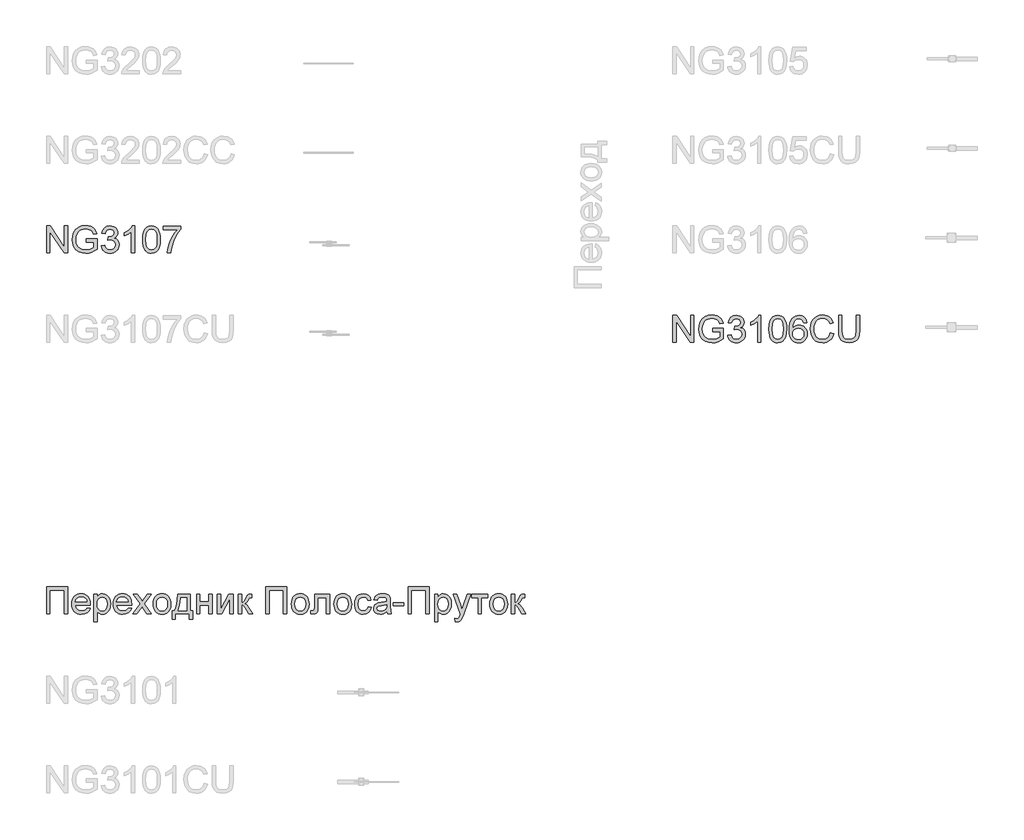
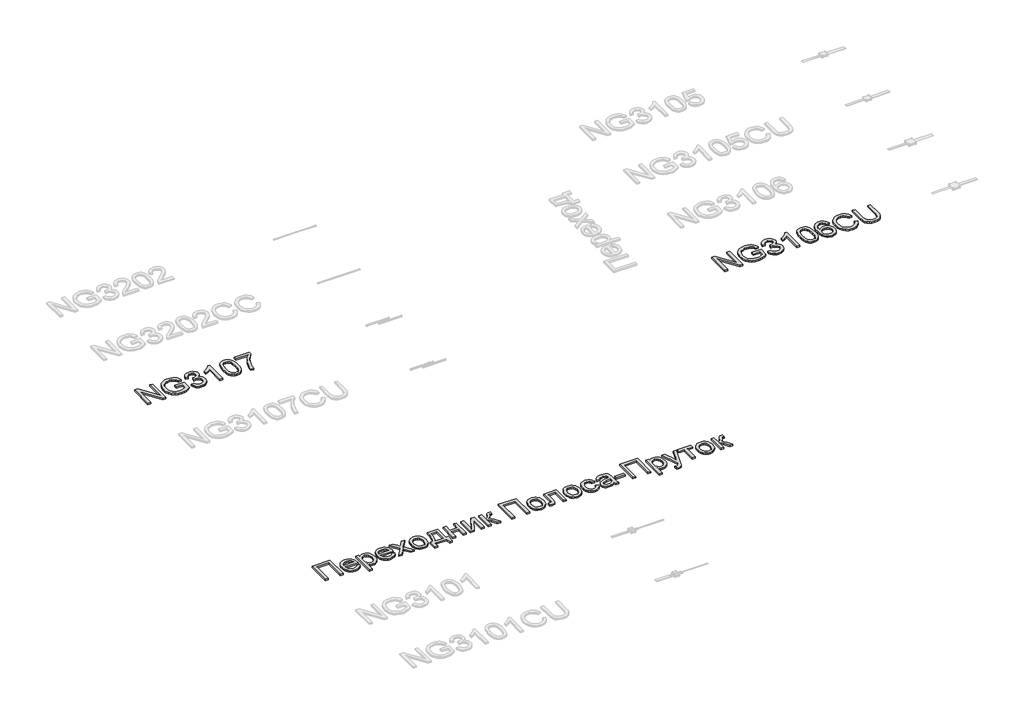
# One storey, part 109 of 124: 3 proxies.
"""IFC4 building model written with IfcOpenShell, lengths in millimetres."""

from ifc_helpers import new_model, si_unit, origin, origin_with_axes, place, context, project, spatial, polyline, outline, extrude, element, save

model = new_model("IFC4")

# Units and contexts
model_context = context("Model", 3, world=origin())
ifc_project = project(units=[si_unit("LENGTHUNIT", "METRE", prefix="MILLI")], contexts=[model_context])

# Site, building, storey
site = spatial("IfcSite", under=ifc_project)
building = spatial("IfcBuilding", under=site)
storey = spatial("IfcBuildingStorey", under=building, Name="Этаж 01", Elevation=0.0)

# Proxies
placement = place(None, origin())
element("IfcBuildingElementProxy", 1, Name="300", ObjectType="300", at=placement, inside=storey, context=model_context, shape_type="SweptSolid", body=[
    extrude(outline(polyline([(49699.8220677, -27253.0619179), (49935.2665446, -27253.0619179), (49935.2665446, -27554.4308483), (49897.5954283, -27554.4308483), (49897.5954283, -27290.7330342), (49737.493184, -27290.7330342), (49737.493184, -27554.4308483), (49699.8220677, -27554.4308483), (49699.8220677, -27253.0619179)])), origin_with_axes(), (0.0, 0.0, 1.0), 20.0),
    extrude(outline(polyline([(50151.434005, -27488.5063948), (50188.3693573, -27493.2152843), (50175.0612261, -27521.0455573), (50153.8252379, -27541.8492841), (50125.1396394, -27554.8171244), (50089.482677, -27559.1397379), (50066.1083747, -27557.275036), (50045.2816553, -27551.6809304), (50027.0025186, -27542.3574211), (50011.2709648, -27529.304508), (49998.6204227, -27512.8854747), (49989.5843212, -27493.4636047), (49984.1626603, -27471.0388978), (49982.35544, -27445.6113541), (49984.1810544, -27419.3215871), (49989.6578976, -27396.1496199), (49998.7859696, -27376.0954526), (50011.5652704, -27359.1590853), (50027.2554375, -27345.7038013), (50045.1161084, -27336.0928842), (50065.147283, -27330.3263339), (50087.3489614, -27328.4041505), (50108.8355692, -27330.3217354), (50128.2666363, -27336.0744901), (50145.6421628, -27345.6624146), (50160.9621486, -27359.0855089), (50173.4678372, -27375.985088), (50182.4004719, -27396.0024671), (50187.7600527, -27419.1376461), (50189.5465797, -27445.3906249), (50189.3258505, -27455.544168), (50020.0265563, -27455.544168), (50026.5472647, -27483.7423229), (50041.6948058, -27504.4724734), (50063.5561934, -27517.2195845), (50090.218441, -27521.4686215), (50110.2680097, -27519.5004529), (50127.1537933, -27513.5959469), (50140.8757917, -27503.3872215), (50151.434005, -27488.5063948)]), holes=[polyline([(50020.0265563, -27417.8730517), (50151.8754634, -27417.8730517), (50146.7802977, -27397.9706358), (50136.7923016, -27383.7336026), (50114.8297465, -27370.4898507), (50087.2018086, -27366.0752668), (50061.8087539, -27369.5977369), (50040.811889, -27380.1651472), (50026.2161709, -27396.6370635), (50020.0265563, -27417.8730517)])]), origin_with_axes(), (0.0, 0.0, 1.0), 20.0),
    extrude(outline(polyline([(50227.217696, -27639.19086), (50227.217696, -27333.11304), (50264.8888123, -27333.11304), (50264.8888123, -27370.0483923), (50277.1760709, -27351.8290365), (50290.9348575, -27338.8152109), (50306.9745125, -27331.0069156), (50326.1043763, -27328.4041505), (50351.5802044, -27332.0461822), (50373.8554593, -27342.9722775), (50391.9920416, -27360.5202487), (50405.0518524, -27384.0279081), (50412.9429212, -27411.7846047), (50415.5732775, -27442.079687), (50412.6026304, -27474.2969527), (50403.6906891, -27503.11131), (50389.1225621, -27527.0604279), (50369.1833579, -27544.6819754), (50345.960807, -27555.5252973), (50321.5426395, -27559.1397379), (50304.2245946, -27556.7209137), (50288.7643538, -27549.4644414), (50275.529799, -27538.510755), (50264.8888123, -27525.0002887), (50264.8888123, -27639.19086), (50227.217696, -27639.19086)]), holes=[polyline([(50264.8888123, -27445.5377777), (50268.9631054, -27479.3093449), (50281.1859847, -27502.927369), (50299.2213995, -27516.8333084), (50320.7332992, -27521.4686215), (50342.5946867, -27516.6677615), (50361.089954, -27502.2651814), (50373.6991094, -27477.7826346), (50377.9021612, -27442.7418746), (50373.800277, -27409.1542484), (50361.4946242, -27385.2051305), (50343.4868006, -27370.8577327), (50322.2784035, -27366.0752668), (50300.9872331, -27371.1612354), (50282.2896307, -27386.4191411), (50269.2390169, -27411.3707374), (50264.8888123, -27445.5377777)])]), origin_with_axes(), (0.0, 0.0, 1.0), 20.0),
    extrude(outline(polyline([(50612.9051797, -27488.5063948), (50649.840532, -27493.2152843), (50636.5324009, -27521.0455573), (50615.2964127, -27541.8492841), (50586.6108141, -27554.8171244), (50550.9538517, -27559.1397379), (50527.5795495, -27557.275036), (50506.75283, -27551.6809304), (50488.4736934, -27542.3574211), (50472.7421396, -27529.304508), (50460.0915975, -27512.8854747), (50451.0554959, -27493.4636047), (50445.633835, -27471.0388978), (50443.8266147, -27445.6113541), (50445.6522291, -27419.3215871), (50451.1290723, -27396.1496199), (50460.2571443, -27376.0954526), (50473.0364452, -27359.1590853), (50488.7266123, -27345.7038013), (50506.5872831, -27336.0928842), (50526.6184578, -27330.3263339), (50548.8201362, -27328.4041505), (50570.3067439, -27330.3217354), (50589.7378111, -27336.0744901), (50607.1133376, -27345.6624146), (50622.4333234, -27359.0855089), (50634.939012, -27375.985088), (50643.8716467, -27396.0024671), (50649.2312275, -27419.1376461), (50651.0177544, -27445.3906249), (50650.7970252, -27455.544168), (50481.497731, -27455.544168), (50488.0184394, -27483.7423229), (50503.1659806, -27504.4724734), (50525.0273681, -27517.2195845), (50551.6896157, -27521.4686215), (50571.7391845, -27519.5004529), (50588.624968, -27513.5959469), (50602.3469665, -27503.3872215), (50612.9051797, -27488.5063948)]), holes=[polyline([(50481.497731, -27417.8730517), (50613.3466381, -27417.8730517), (50608.2514725, -27397.9706358), (50598.2634763, -27383.7336026), (50576.3009212, -27370.4898507), (50548.6729834, -27366.0752668), (50523.2799286, -27369.5977369), (50502.2830638, -27380.1651472), (50487.6873456, -27396.6370635), (50481.497731, -27417.8730517)])]), origin_with_axes(), (0.0, 0.0, 1.0), 20.0),
    extrude(outline(polyline([(50665.144423, -27554.4308483), (50745.6370036, -27443.183333), (50669.8533126, -27333.11304), (50715.1763744, -27333.11304), (50751.7438447, -27386.0880473), (50768.8135693, -27411.104023), (50783.6024255, -27390.6497841), (50825.2466673, -27333.11304), (50870.5697291, -27333.11304), (50790.9600654, -27443.183333), (50867.6266732, -27554.4308483), (50822.3036114, -27554.4308483), (50776.1712092, -27487.5499016), (50767.7099233, -27475.3362194), (50710.4674848, -27554.4308483), (50665.144423, -27554.4308483)])), origin_with_axes(), (0.0, 0.0, 1.0), 20.0),
    extrude(outline(polyline([(50891.1711209, -27443.7719442), (50893.2082674, -27415.1093382), (50899.3197071, -27390.4106608), (50909.5054398, -27369.6759118), (50923.7654656, -27352.9050914), (50938.1220605, -27342.1859297), (50953.9685775, -27334.5293857), (50971.3050165, -27329.9354593), (50990.1313776, -27328.4041505), (51010.914411, -27330.2688523), (51029.7062832, -27335.8629579), (51046.5069941, -27345.1864672), (51061.3165436, -27358.2393803), (51073.4037664, -27374.5802387), (51082.037497, -27393.767584), (51087.2177354, -27415.8014162), (51088.9444815, -27440.6817354), (51085.8910609, -27478.7391278), (51076.7307992, -27507.7098349), (51061.7304109, -27529.4056756), (51041.1566103, -27545.6384686), (51016.7200488, -27555.7644205), (50990.1313776, -27559.1397379), (50969.0448415, -27557.2819338), (50950.0782254, -27551.7085216), (50933.2315292, -27542.4195012), (50918.5047531, -27529.4148726), (50906.546289, -27512.9153652), (50898.0045289, -27493.1417079), (50892.8794729, -27470.0939009), (50891.1711209, -27443.7719442)]), holes=[polyline([(50928.8422372, -27443.6983678), (50933.2016388, -27477.7918317), (50946.2798438, -27502.0812404), (50965.9615305, -27516.6217763), (50990.1313776, -27521.4686215), (51014.1908601, -27516.5941851), (51033.8357586, -27501.9708758), (51046.9139635, -27477.3595703), (51051.2733652, -27442.5211454), (51046.8863724, -27409.4209629), (51033.725394, -27385.4626479), (51014.0529043, -27370.9221121), (50990.1313776, -27366.0752668), (50965.9615305, -27370.903718), (50946.2798438, -27385.3890715), (50933.2016388, -27409.623298), (50928.8422372, -27443.6983678)])]), origin_with_axes(), (0.0, 0.0, 1.0), 20.0),
    extrude(outline(polyline([(51164.2867141, -27333.11304), (51305.5534002, -27333.11304), (51305.5534002, -27516.759732), (51333.8067375, -27516.759732), (51333.8067375, -27615.6464123), (51296.1356212, -27615.6464123), (51296.1356212, -27554.4308483), (51140.7422664, -27554.4308483), (51140.7422664, -27615.6464123), (51103.0711501, -27615.6464123), (51103.0711501, -27516.759732), (51126.6155978, -27516.759732), (51143.7313076, -27485.8300533), (51155.7150636, -27444.9123784), (51162.5668658, -27394.0067073), (51164.2867141, -27333.11304)]), holes=[polyline([(51197.2489409, -27370.7841563), (51194.1587321, -27416.9073615), (51188.419773, -27456.6110258), (51180.0320635, -27489.8951493), (51168.9956036, -27516.759732), (51267.8822839, -27516.759732), (51267.8822839, -27370.7841563), (51197.2489409, -27370.7841563)])]), origin_with_axes(), (0.0, 0.0, 1.0), 20.0),
    extrude(outline(polyline([(51376.1867433, -27333.11304), (51413.8578596, -27333.11304), (51413.8578596, -27417.8730517), (51512.7445399, -27417.8730517), (51512.7445399, -27333.11304), (51550.4156562, -27333.11304), (51550.4156562, -27554.4308483), (51512.7445399, -27554.4308483), (51512.7445399, -27455.544168), (51413.8578596, -27455.544168), (51413.8578596, -27554.4308483), (51376.1867433, -27554.4308483), (51376.1867433, -27333.11304)])), origin_with_axes(), (0.0, 0.0, 1.0), 20.0),
    extrude(outline(polyline([(51606.9223307, -27333.11304), (51644.593447, -27333.11304), (51644.593447, -27501.8972994), (51737.152557, -27333.11304), (51785.8601331, -27333.11304), (51785.8601331, -27554.4308483), (51748.1890168, -27554.4308483), (51748.1890168, -27386.6766585), (51656.218518, -27554.4308483), (51606.9223307, -27554.4308483), (51606.9223307, -27333.11304)])), origin_with_axes(), (0.0, 0.0, 1.0), 20.0),
    extrude(outline(polyline([(51842.3668076, -27333.11304), (51880.0379239, -27333.11304), (51880.0379239, -27427.2908308), (51895.360209, -27425.5985736), (51905.2746288, -27420.5218021), (51914.0486144, -27407.2780502), (51925.9495969, -27381.0848522), (51943.1296861, -27347.0557676), (51958.2864243, -27335.9825196), (51985.8407857, -27333.11304), (51993.0512728, -27333.11304), (51993.0512728, -27371.0048855), (51982.8977298, -27370.7841563), (51964.50363, -27374.7572819), (51951.5541838, -27399.5525283), (51936.3606574, -27426.3711258), (51915.0602899, -27439.504513), (51926.9980606, -27444.8066123), (51938.8254667, -27454.1646105), (51962.1491852, -27485.048304), (52002.4690519, -27554.4308483), (51959.6475877, -27554.4308483), (51920.1370614, -27486.519832), (51900.2714336, -27457.7882482), (51890.9824133, -27452.5735209), (51880.0379239, -27450.8352785), (51880.0379239, -27554.4308483), (51842.3668076, -27554.4308483), (51842.3668076, -27333.11304)])), origin_with_axes(), (0.0, 0.0, 1.0), 20.0),
    extrude(outline(polyline([(52148.4446276, -27253.0619179), (52383.8891045, -27253.0619179), (52383.8891045, -27554.4308483), (52346.2179882, -27554.4308483), (52346.2179882, -27290.7330342), (52186.1157439, -27290.7330342), (52186.1157439, -27554.4308483), (52148.4446276, -27554.4308483), (52148.4446276, -27253.0619179)])), origin_with_axes(), (0.0, 0.0, 1.0), 20.0),
    extrude(outline(polyline([(52435.6868894, -27443.7719442), (52437.724036, -27415.1093382), (52443.8354756, -27390.4106608), (52454.0212084, -27369.6759118), (52468.2812342, -27352.9050914), (52482.6378291, -27342.1859297), (52498.484346, -27334.5293857), (52515.820785, -27329.9354593), (52534.6471461, -27328.4041505), (52555.4301796, -27330.2688523), (52574.2220518, -27335.8629579), (52591.0227626, -27345.1864672), (52605.8323122, -27358.2393803), (52617.919535, -27374.5802387), (52626.5532656, -27393.767584), (52631.7335039, -27415.8014162), (52633.46025, -27440.6817354), (52630.4068295, -27478.7391278), (52621.2465678, -27507.7098349), (52606.2461794, -27529.4056756), (52585.6723789, -27545.6384686), (52561.2358173, -27555.7644205), (52534.6471461, -27559.1397379), (52513.56061, -27557.2819338), (52494.5939939, -27551.7085216), (52477.7472978, -27542.4195012), (52463.0205217, -27529.4148726), (52451.0620576, -27512.9153652), (52442.5202975, -27493.1417079), (52437.3952414, -27470.0939009), (52435.6868894, -27443.7719442)]), holes=[polyline([(52473.3580057, -27443.6983678), (52477.7174074, -27477.7918317), (52490.7956123, -27502.0812404), (52510.477299, -27516.6217763), (52534.6471461, -27521.4686215), (52558.7066286, -27516.5941851), (52578.3515272, -27501.9708758), (52591.4297321, -27477.3595703), (52595.7891337, -27442.5211454), (52591.4021409, -27409.4209629), (52578.2411626, -27385.4626479), (52558.5686729, -27370.9221121), (52534.6471461, -27366.0752668), (52510.477299, -27370.903718), (52490.7956123, -27385.3890715), (52477.7174074, -27409.623298), (52473.3580057, -27443.6983678)])]), origin_with_axes(), (0.0, 0.0, 1.0), 20.0),
    extrude(outline(polyline([(52694.675814, -27333.11304), (52864.1958374, -27333.11304), (52864.1958374, -27554.2101191), (52826.5247211, -27554.2101191), (52826.5247211, -27370.7841563), (52732.3469303, -27370.7841563), (52732.3469303, -27476.3662889), (52729.8085446, -27525.0738651), (52725.0536698, -27536.1011279), (52715.865817, -27545.6384686), (52701.9230893, -27552.2327534), (52682.9035902, -27554.4308483), (52652.2958082, -27552.5178619), (52652.2958082, -27516.759732), (52669.1448036, -27516.759732), (52686.1777399, -27514.4420754), (52692.9835569, -27507.0844355), (52694.675814, -27474.2325734), (52694.675814, -27333.11304)])), origin_with_axes(), (0.0, 0.0, 1.0), 20.0),
    extrude(outline(polyline([(52911.2847328, -27443.7719442), (52913.3218793, -27415.1093382), (52919.433319, -27390.4106608), (52929.6190517, -27369.6759118), (52943.8790776, -27352.9050914), (52958.2356724, -27342.1859297), (52974.0821894, -27334.5293857), (52991.4186284, -27329.9354593), (53010.2449895, -27328.4041505), (53031.028023, -27330.2688523), (53049.8198951, -27335.8629579), (53066.620606, -27345.1864672), (53081.4301556, -27358.2393803), (53093.5173784, -27374.5802387), (53102.1511089, -27393.767584), (53107.3313473, -27415.8014162), (53109.0580934, -27440.6817354), (53106.0046728, -27478.7391278), (53096.8444112, -27507.7098349), (53081.8440228, -27529.4056756), (53061.2702222, -27545.6384686), (53036.8336607, -27555.7644205), (53010.2449895, -27559.1397379), (52989.1584534, -27557.2819338), (52970.1918373, -27551.7085216), (52953.3451412, -27542.4195012), (52938.618365, -27529.4148726), (52926.6599009, -27512.9153652), (52918.1181408, -27493.1417079), (52912.9930848, -27470.0939009), (52911.2847328, -27443.7719442)]), holes=[polyline([(52948.9558491, -27443.6983678), (52953.3152507, -27477.7918317), (52966.3934557, -27502.0812404), (52986.0751424, -27516.6217763), (53010.2449895, -27521.4686215), (53034.304472, -27516.5941851), (53053.9493705, -27501.9708758), (53067.0275754, -27477.3595703), (53071.3869771, -27442.5211454), (53066.9999843, -27409.4209629), (53053.8390059, -27385.4626479), (53034.1665162, -27370.9221121), (53010.2449895, -27366.0752668), (52986.0751424, -27370.903718), (52966.3934557, -27385.3890715), (52953.3152507, -27409.623298), (52948.9558491, -27443.6983678)])]), origin_with_axes(), (0.0, 0.0, 1.0), 20.0),
    extrude(outline(polyline([(53292.7047854, -27474.3797262), (53330.3759017, -27479.0886157), (53319.8728707, -27512.5934684), (53300.1360017, -27537.9129467), (53273.0230986, -27553.8330401), (53240.3919657, -27559.1397379), (53219.2640428, -27557.2888316), (53200.3204193, -27551.7361127), (53183.5610952, -27542.4815813), (53168.9860704, -27529.5252372), (53157.1885547, -27513.1108025), (53148.7617577, -27493.4819988), (53143.7056796, -27470.6388261), (53142.0203202, -27444.5812846), (53144.8989968, -27411.0580377), (53153.5350266, -27382.0045572), (53168.0663654, -27358.5428829), (53188.630969, -27341.7950551), (53213.2330774, -27331.7518766), (53239.8769309, -27328.4041505), (53271.7079205, -27333.0026754), (53297.1561575, -27346.7982502), (53315.4123015, -27369.0551109), (53325.6670122, -27399.0374936), (53287.9958959, -27403.7463831), (53281.1624878, -27387.311255), (53270.5215011, -27375.5298341), (53256.6615469, -27368.4389086), (53240.1712365, -27366.0752668), (53215.8266454, -27370.728974), (53196.5036436, -27384.6900957), (53183.8944883, -27408.71279), (53179.6914365, -27443.551215), (53183.8025178, -27478.8586895), (53196.1357617, -27502.9641572), (53215.1092756, -27516.8425055), (53239.1411669, -27521.4686215), (53258.6481097, -27518.5807479), (53274.6417794, -27509.9171269), (53286.2760475, -27495.2570294), (53292.7047854, -27474.3797262)])), origin_with_axes(), (0.0, 0.0, 1.0), 20.0),
    extrude(outline(polyline([(53504.6048146, -27526.1775111), (53486.606188, -27541.6101608), (53468.0741325, -27551.7085216), (53448.5855838, -27557.2819338), (53427.7174776, -27559.1397379), (53396.2359759, -27554.6699716), (53373.0134249, -27541.2606729), (53358.6936183, -27520.8984045), (53353.9203494, -27495.5697291), (53355.7229712, -27479.9531384), (53361.1308365, -27465.7712875), (53369.4725607, -27453.6311816), (53380.0767592, -27444.1398262), (53406.4538983, -27431.7789911), (53439.0482431, -27426.1136084), (53477.565488, -27420.1539201), (53504.3840854, -27413.1641622), (53504.6048146, -27404.7764527), (53502.0112465, -27387.9642455), (53494.2305423, -27376.9645738), (53476.829724, -27368.7975935), (53452.5863005, -27366.0752668), (53430.1454988, -27367.8870856), (53414.4737258, -27373.3225421), (53403.7867538, -27383.3749176), (53396.3003552, -27399.0374936), (53358.6292389, -27394.328604), (53365.1683414, -27373.7272123), (53374.9264113, -27357.5404045), (53388.8139566, -27345.1611754), (53407.7414853, -27335.9825196), (53430.8904598, -27330.2987428), (53457.4423428, -27328.4041505), (53482.9089739, -27330.0780136), (53503.0964984, -27335.0996028), (53518.317616, -27342.6503807), (53528.8850263, -27351.91181), (53535.8931783, -27363.3621371), (53540.4365209, -27377.4796086), (53542.2759309, -27410.4418354), (53542.2759309, -27457.3100016), (53544.1889173, -27522.7562085), (53551.69371, -27554.4308483), (53514.0225937, -27554.4308483), (53504.6048146, -27526.1775111)]), holes=[polyline([(53504.6048146, -27450.8352785), (53443.830709, -27462.3867731), (53411.4203052, -27468.4936142), (53396.7418136, -27478.4264281), (53391.5914657, -27492.9209787), (53394.3965659, -27504.1229855), (53402.8118665, -27513.3016413), (53416.6534266, -27519.4268765), (53435.7373051, -27521.4686215), (53455.9708148, -27519.2153443), (53473.8498798, -27512.4555127), (53488.3444304, -27502.4951076), (53498.4243971, -27490.6401104), (53502.8941633, -27478.4264281), (53504.3840854, -27461.5038563), (53504.6048146, -27450.8352785)])]), origin_with_axes(), (0.0, 0.0, 1.0), 20.0),
    extrude(outline(polyline([(53575.2381577, -27464.9619471), (53575.2381577, -27427.2908308), (53692.9603961, -27427.2908308), (53692.9603961, -27464.9619471), (53575.2381577, -27464.9619471)])), origin_with_axes(), (0.0, 0.0, 1.0), 20.0),
    extrude(outline(polyline([(53740.0492915, -27253.0619179), (53975.4937684, -27253.0619179), (53975.4937684, -27554.4308483), (53937.8226521, -27554.4308483), (53937.8226521, -27290.7330342), (53777.7204078, -27290.7330342), (53777.7204078, -27554.4308483), (53740.0492915, -27554.4308483), (53740.0492915, -27253.0619179)])), origin_with_axes(), (0.0, 0.0, 1.0), 20.0),
    extrude(outline(polyline([(54036.7093324, -27639.19086), (54036.7093324, -27333.11304), (54074.3804487, -27333.11304), (54074.3804487, -27370.0483923), (54086.6677074, -27351.8290365), (54100.426494, -27338.8152109), (54116.466149, -27331.0069156), (54135.5960127, -27328.4041505), (54161.0718409, -27332.0461822), (54183.3470957, -27342.9722775), (54201.4836781, -27360.5202487), (54214.5434889, -27384.0279081), (54222.4345577, -27411.7846047), (54225.064914, -27442.079687), (54222.0942669, -27474.2969527), (54213.1823255, -27503.11131), (54198.6141985, -27527.0604279), (54178.6749944, -27544.6819754), (54155.4524434, -27555.5252973), (54131.034276, -27559.1397379), (54113.7162311, -27556.7209137), (54098.2559902, -27549.4644414), (54085.0214355, -27538.510755), (54074.3804487, -27525.0002887), (54074.3804487, -27639.19086), (54036.7093324, -27639.19086)]), holes=[polyline([(54074.3804487, -27445.5377777), (54078.4547418, -27479.3093449), (54090.6776211, -27502.927369), (54108.7130359, -27516.8333084), (54130.2249356, -27521.4686215), (54152.0863232, -27516.6677615), (54170.5815905, -27502.2651814), (54183.1907459, -27477.7826346), (54187.3937977, -27442.7418746), (54183.2919134, -27409.1542484), (54170.9862607, -27385.2051305), (54152.978437, -27370.8577327), (54131.77004, -27366.0752668), (54110.4788695, -27371.1612354), (54091.7812671, -27386.4191411), (54078.7306533, -27411.3707374), (54074.3804487, -27445.5377777)])]), origin_with_axes(), (0.0, 0.0, 1.0), 20.0),
    extrude(outline(polyline([(54267.4449198, -27639.19086), (54262.7360303, -27602.9176953), (54281.865894, -27606.2286332), (54299.744959, -27602.0715667), (54310.7078424, -27590.4832838), (54321.0085383, -27562.7449814), (54323.9515943, -27553.6215079), (54243.9004721, -27333.11304), (54283.6317276, -27333.11304), (54326.0853098, -27455.9856264), (54340.874166, -27505.134661), (54355.6630223, -27461.7245855), (54399.2938269, -27333.11304), (54438.7307768, -27333.11304), (54361.696287, -27559.728349), (54341.6835064, -27608.8773836), (54331.4379929, -27624.5675507), (54319.8313159, -27635.4384637), (54306.3484408, -27641.7844281), (54290.4743327, -27643.8997495), (54267.4449198, -27639.19086)])), origin_with_axes(), (0.0, 0.0, 1.0), 20.0),
    extrude(outline(polyline([(54451.0916118, -27333.11304), (54630.0294143, -27333.11304), (54630.0294143, -27370.7841563), (54559.3960712, -27370.7841563), (54559.3960712, -27554.4308483), (54521.7249549, -27554.4308483), (54521.7249549, -27370.7841563), (54451.0916118, -27370.7841563), (54451.0916118, -27333.11304)])), origin_with_axes(), (0.0, 0.0, 1.0), 20.0),
    extrude(outline(polyline([(54653.5738619, -27443.7719442), (54655.6110085, -27415.1093382), (54661.7224481, -27390.4106608), (54671.9081809, -27369.6759118), (54686.1682067, -27352.9050914), (54700.5248016, -27342.1859297), (54716.3713185, -27334.5293857), (54733.7077575, -27329.9354593), (54752.5341186, -27328.4041505), (54773.3171521, -27330.2688523), (54792.1090243, -27335.8629579), (54808.9097351, -27345.1864672), (54823.7192847, -27358.2393803), (54835.8065075, -27374.5802387), (54844.4402381, -27393.767584), (54849.6204764, -27415.8014162), (54851.3472226, -27440.6817354), (54848.293802, -27478.7391278), (54839.1335403, -27507.7098349), (54824.133152, -27529.4056756), (54803.5593514, -27545.6384686), (54779.1227899, -27555.7644205), (54752.5341186, -27559.1397379), (54731.4475825, -27557.2819338), (54712.4809664, -27551.7085216), (54695.6342703, -27542.4195012), (54680.9074942, -27529.4148726), (54668.9490301, -27512.9153652), (54660.40727, -27493.1417079), (54655.282214, -27470.0939009), (54653.5738619, -27443.7719442)]), holes=[polyline([(54691.2449783, -27443.6983678), (54695.6043799, -27477.7918317), (54708.6825848, -27502.0812404), (54728.3642716, -27516.6217763), (54752.5341186, -27521.4686215), (54776.5936011, -27516.5941851), (54796.2384997, -27501.9708758), (54809.3167046, -27477.3595703), (54813.6761062, -27442.5211454), (54809.2891135, -27409.4209629), (54796.1281351, -27385.4626479), (54776.4556454, -27370.9221121), (54752.5341186, -27366.0752668), (54728.3642716, -27370.903718), (54708.6825848, -27385.3890715), (54695.6043799, -27409.623298), (54691.2449783, -27443.6983678)])]), origin_with_axes(), (0.0, 0.0, 1.0), 20.0),
    extrude(outline(polyline([(54893.7272284, -27333.11304), (54931.3983447, -27333.11304), (54931.3983447, -27427.2908308), (54946.7206298, -27425.5985736), (54956.6350496, -27420.5218021), (54965.4090352, -27407.2780502), (54977.3100177, -27381.0848522), (54994.4901069, -27347.0557676), (55009.6468451, -27335.9825196), (55037.2012065, -27333.11304), (55044.4116936, -27333.11304), (55044.4116936, -27371.0048855), (55034.2581506, -27370.7841563), (55015.8640508, -27374.7572819), (55002.9146046, -27399.5525283), (54987.7210782, -27426.3711258), (54966.4207106, -27439.504513), (54978.3584814, -27444.8066123), (54990.1858875, -27454.1646105), (55013.509606, -27485.048304), (55053.8294727, -27554.4308483), (55011.0080085, -27554.4308483), (54971.4974822, -27486.519832), (54951.6318544, -27457.7882482), (54942.3428341, -27452.5735209), (54931.3983447, -27450.8352785), (54931.3983447, -27554.4308483), (54893.7272284, -27554.4308483), (54893.7272284, -27333.11304)])), origin_with_axes(), (0.0, 0.0, 1.0), 20.0),
])
element("IfcBuildingElementProxy", 2, Name="300", ObjectType="300", at=placement, inside=storey, context=model_context, shape_type="SweptSolid", body=[
    extrude(outline(polyline([(56699.8220677, -24519.5141033), (56699.8220677, -24218.1451728), (56740.1419344, -24218.1451728), (56897.5954283, -24456.9005877), (56897.5954283, -24218.1451728), (56935.2665446, -24218.1451728), (56935.2665446, -24519.5141033), (56894.9466779, -24519.5141033), (56737.493184, -24280.685112), (56737.493184, -24519.5141033), (56699.8220677, -24519.5141033)])), origin_with_axes(), (0.0, 0.0, 1.0), 20.0),
    extrude(outline(polyline([(57142.4576843, -24401.7918648), (57142.4576843, -24364.1207485), (57264.8888123, -24364.1207485), (57264.8888123, -24476.7662154), (57235.1363559, -24497.4595776), (57204.4458005, -24512.3036162), (57172.8907223, -24521.2431486), (57140.5446979, -24524.2229928), (57098.2842537, -24519.4865121), (57060.0889056, -24505.27707), (57028.3590835, -24482.0913073), (57005.4952175, -24450.4258646), (56991.6720515, -24412.4420486), (56987.0643295, -24370.301166), (56991.6536574, -24327.8567808), (57005.4216411, -24288.3738457), (57027.7980634, -24255.2552691), (57058.2127074, -24231.9039594), (57095.2584243, -24218.0532023), (57137.5280656, -24213.4362833), (57168.5589118, -24216.1126248), (57196.4627612, -24224.1416493), (57219.9612236, -24236.9439428), (57237.7759092, -24253.9400909), (57250.9552817, -24275.9486313), (57260.5478047, -24303.7881013), (57225.8197444, -24313.5737624), (57218.0666313, -24293.7173317), (57208.6396552, -24278.7353374), (57196.1684556, -24267.4413602), (57179.282672, -24258.6489805), (57159.1503298, -24252.9927948), (57136.9394544, -24251.1073996), (57110.9393944, -24253.1399476), (57088.7101248, -24259.2375917), (57070.3344191, -24268.6369766), (57055.8950508, -24280.5747474), (57036.5076697, -24309.6006368), (57027.6785018, -24338.037915), (57024.7354458, -24368.7560616), (57028.27631, -24404.780906), (57038.8989026, -24434.4229978), (57056.2813269, -24457.4708048), (57080.1016861, -24473.7127949), (57107.9779443, -24483.3421061), (57137.5280656, -24486.5518765), (57163.6200961, -24484.1330524), (57189.0683331, -24476.87658), (57211.1688439, -24466.8793868), (57227.217696, -24456.2384001), (57227.217696, -24401.7918648), (57142.4576843, -24401.7918648)])), origin_with_axes(), (0.0, 0.0, 1.0), 20.0),
    extrude(outline(polyline([(57311.9777077, -24439.4629811), (57349.648824, -24434.7540916), (57358.0825187, -24458.427298), (57370.4341567, -24474.4117707), (57387.3107432, -24483.51685), (57409.3192836, -24486.5518765), (57435.1445997, -24482.3764158), (57455.0838038, -24469.8500339), (57467.8309149, -24451.1616286), (57472.079952, -24428.5000977), (57467.8677031, -24406.988198), (57455.2309566, -24389.5413944), (57436.1010928, -24377.9807027), (57412.4094924, -24374.1271388), (57385.9955651, -24378.2474171), (57390.1894198, -24340.5763008), (57396.2226846, -24341.0177592), (57418.792245, -24338.3138265), (57438.9705724, -24330.2020285), (57453.2076056, -24316.4800301), (57457.9532834, -24296.9454962), (57454.5135867, -24280.6759149), (57444.1944967, -24267.4781484), (57428.4491473, -24258.7317539), (57408.7306724, -24255.8162891), (57388.9754093, -24258.7593451), (57372.8253897, -24267.588513), (57361.0347717, -24282.3037928), (57354.3577135, -24302.9051845), (57316.6865972, -24298.196295), (57327.7782394, -24264.3695455), (57347.5151084, -24239.1144465), (57374.5176468, -24223.3874912), (57407.4062972, -24218.1451728), (57431.0887007, -24220.7295438), (57452.8397236, -24228.4826569), (57471.1786411, -24240.7147332), (57484.624728, -24256.7359941), (57492.8744817, -24275.1944732), (57495.6243997, -24294.7382042), (57493.0124375, -24312.948363), (57485.176551, -24329.4662646), (57472.2271048, -24343.5377509), (57454.2744634, -24354.4086638), (57477.8556993, -24363.9368075), (57495.3300941, -24380.1604035), (57506.1458247, -24402.196535), (57509.7510683, -24429.1622852), (57507.9484465, -24448.2737549), (57502.5405812, -24465.8769084), (57493.5274723, -24481.9717457), (57480.9091199, -24496.5582668), (57465.536251, -24508.6615844), (57448.2595928, -24517.3068113), (57429.0791453, -24522.4939474), (57407.9949084, -24524.2229928), (57388.9386211, -24522.7468663), (57371.5745909, -24518.3184868), (57355.9028179, -24510.9378542), (57341.9233021, -24500.6049687), (57330.201662, -24487.9268354), (57321.3035162, -24473.5104598), (57315.2288648, -24457.3558417), (57311.9777077, -24439.4629811)])), origin_with_axes(), (0.0, 0.0, 1.0), 20.0),
    extrude(outline(polyline([(57683.9799812, -24519.5141033), (57646.3088649, -24519.5141033), (57646.3088649, -24284.6582375), (57610.6243114, -24310.0788834), (57570.9666323, -24329.0983826), (57570.9666323, -24293.4874054), (57600.5535417, -24277.3925681), (57626.1857197, -24258.2443103), (57646.3916383, -24237.8820419), (57659.6997695, -24218.1451728), (57683.9799812, -24218.1451728), (57683.9799812, -24519.5141033)])), origin_with_axes(), (0.0, 0.0, 1.0), 20.0),
    extrude(outline(polyline([(57773.4488824, -24371.2576592), (57776.2171944, -24323.0191326), (57784.5221305, -24284.5478729), (57798.2809171, -24255.2552691), (57817.4107808, -24234.5527098), (57842.0496775, -24222.2470571), (57872.3355627, -24218.1451728), (57895.5489166, -24220.573194), (57916.3342493, -24227.8572575), (57933.7166736, -24239.7122548), (57946.7213021, -24255.8530773), (57956.5437514, -24276.1417694), (57964.3796379, -24300.4403751), (57969.5115917, -24331.2964775), (57971.222243, -24371.2576592), (57968.4815222, -24419.2202743), (57960.2593596, -24457.5995635), (57946.5833464, -24486.9197585), (57927.4810738, -24507.7050912), (57902.7869949, -24520.0935174), (57872.3355627, -24524.2229928), (57851.5870182, -24522.4295681), (57833.1929184, -24517.0492939), (57817.1532634, -24508.0821703), (57803.4680532, -24495.5281972), (57790.334666, -24472.8344766), (57780.9536751, -24444.5581467), (57775.3250806, -24410.6992076), (57773.4488824, -24371.2576592)]), holes=[polyline([(57811.1199987, -24371.1840828), (57815.5345827, -24430.4406752), (57821.0528126, -24450.7086739), (57828.7783345, -24464.7364742), (57848.4968094, -24481.0980259), (57872.3355627, -24486.5518765), (57896.174316, -24481.0796318), (57915.892791, -24464.6628978), (57923.6183128, -24450.6121048), (57929.1365428, -24430.3487047), (57933.5511267, -24371.1840828), (57929.2836956, -24313.2610627), (57923.9494066, -24293.0597426), (57916.4814021, -24278.6985492), (57896.7997154, -24261.5368541), (57871.8941043, -24255.8162891), (57848.3128684, -24260.8562725), (57829.3669457, -24275.9762225), (57821.3839064, -24291.6112072), (57815.6817355, -24312.6908456), (57811.1199987, -24371.1840828)])]), origin_with_axes(), (0.0, 0.0, 1.0), 20.0),
    extrude(outline(polyline([(58197.2489409, -24298.196295), (58159.5778246, -24302.9051845), (58153.5077716, -24284.2351732), (58145.3040031, -24271.4880621), (58128.2158845, -24259.7342324), (58107.5593104, -24255.8162891), (58090.0481275, -24258.0971575), (58073.5670141, -24264.9397626), (58059.4127543, -24279.3515398), (58047.8520626, -24299.1895763), (58040.0437673, -24327.2497755), (58037.1466966, -24366.3280405), (58052.2574495, -24348.6972959), (58070.3664407, -24336.2720815), (58090.4619947, -24328.9052445), (58111.532436, -24326.4496322), (58129.6322301, -24328.1280938), (58146.3340727, -24333.1634786), (58161.6379637, -24341.5557866), (58175.5439031, -24353.3050178), (58187.0999963, -24367.7121965), (58195.3543486, -24384.0783467), (58200.3069599, -24402.4034686), (58201.9578304, -24422.6875621), (58198.8492275, -24449.6625094), (58189.523419, -24474.669288), (58174.7529569, -24495.8776851), (58155.3103934, -24511.4574876), (58132.0786454, -24521.0316165), (58105.9406297, -24524.2229928), (58083.4837331, -24522.1076713), (58063.2019389, -24515.7617069), (58045.0952469, -24505.1850995), (58029.1636573, -24490.3778492), (58016.1751236, -24470.7145566), (58006.8975995, -24445.5698222), (58001.3310851, -24414.9436461), (57999.4755803, -24378.8360283), (58001.5357194, -24338.3552133), (58007.7161369, -24303.8064954), (58018.0168328, -24275.1898747), (58032.437807, -24252.5053512), (58048.0681933, -24237.4727731), (58066.1909801, -24226.7352174), (58086.8061674, -24220.292684), (58109.9137552, -24218.1451728), (58142.9679525, -24223.4610676), (58169.437062, -24239.4087521), (58187.9783146, -24264.7374275), (58197.2489409, -24298.196295)]), holes=[polyline([(58037.1466966, -24422.0989509), (58039.3263974, -24438.7915965), (58045.8654998, -24454.7300839), (58056.0190429, -24468.4336882), (58069.0420655, -24478.4216844), (58084.7598238, -24484.5193285), (58102.9975737, -24486.5518765), (58127.8571995, -24482.3396276), (58147.4009305, -24469.7028811), (58160.0652682, -24449.8372534), (58164.2867141, -24423.9383609), (58160.1204505, -24399.0787351), (58147.6216597, -24380.1236153), (58127.7468349, -24368.1214652), (58101.4524693, -24364.1207485), (58076.6296317, -24368.1214652), (58055.8718901, -24380.1236153), (58041.8279949, -24398.6188826), (58037.1466966, -24422.0989509)])]), origin_with_axes(), (0.0, 0.0, 1.0), 20.0),
    extrude(outline(polyline([(58460.946755, -24412.3868663), (58498.6178713, -24422.0989509), (58491.1636624, -24445.5261362), (58481.235447, -24465.99647), (58468.8332253, -24483.5099522), (58453.9569971, -24498.0665829), (58436.9424548, -24509.5100123), (58418.1252908, -24517.6838903), (58397.5055049, -24522.5882172), (58375.0830973, -24524.2229928), (58331.3879134, -24519.27498), (58296.6874442, -24504.4309415), (58270.0895759, -24480.2059121), (58250.7021948, -24447.1149266), (58238.8655916, -24408.2114056), (58234.9200572, -24366.5487697), (58239.3806264, -24322.6052653), (58252.7623339, -24284.6582375), (58274.3662041, -24253.9124998), (58303.4932611, -24231.5728656), (58338.0373804, -24217.9704289), (58375.8924377, -24213.4362833), (58417.1963887, -24219.3040011), (58435.1651249, -24226.6386484), (58451.3450349, -24236.9071546), (58465.4694043, -24249.8382067), (58477.2715185, -24265.1604918), (58493.9089818, -24302.9787609), (58456.2378655, -24311.9550816), (58443.1780546, -24284.4834936), (58425.3357779, -24265.6387384), (58402.490306, -24254.7402343), (58374.4209097, -24251.1073996), (58342.0656883, -24255.1357074), (58315.4862141, -24267.220631), (58295.3170837, -24286.0929773), (58282.1928935, -24310.4835536), (58274.9916035, -24338.0563091), (58272.5911735, -24366.4751933), (58275.4330619, -24401.27683), (58283.9587271, -24431.3695772), (58298.4900659, -24455.6038036), (58319.3489751, -24472.8298781), (58344.3557537, -24483.1213769), (58371.330701, -24486.5518765), (58402.7754145, -24481.8797752), (58428.9778096, -24467.8634711), (58448.7606639, -24444.6501172), (58460.946755, -24412.3868663)])), origin_with_axes(), (0.0, 0.0, 1.0), 20.0),
    extrude(outline(polyline([(58748.1890168, -24218.1451728), (58785.8601331, -24218.1451728), (58785.8601331, -24392.0062037), (58783.3033533, -24432.7215435), (58775.6330137, -24464.0742866), (58761.30401, -24488.2625278), (58738.7712378, -24507.484362), (58707.9795148, -24520.0383351), (58668.8736587, -24524.2229928), (58630.6231282, -24520.580961), (58600.0429374, -24509.6548658), (58577.1238891, -24491.8217861), (58561.8567863, -24467.4588009), (58553.2759387, -24434.7816827), (58550.4156562, -24392.0062037), (58550.4156562, -24218.1451728), (58588.0867725, -24218.1451728), (58588.0867725, -24390.6818285), (58589.9445766, -24424.5361692), (58595.5179888, -24448.108208), (58605.6163496, -24464.4329715), (58621.0489993, -24476.5454862), (58641.1721444, -24484.0502789), (58665.3419915, -24486.5518765), (58703.6569013, -24481.6038637), (58717.9997006, -24475.4188476), (58729.1327295, -24466.7598252), (58737.4698552, -24454.5829311), (58743.424945, -24437.8443003), (58748.1890168, -24390.6818285), (58748.1890168, -24218.1451728)])), origin_with_axes(), (0.0, 0.0, 1.0), 20.0),
])
element("IfcBuildingElementProxy", 3, Name="300", ObjectType="300", at=placement, inside=storey, context=model_context, shape_type="SweptSolid", body=[
    extrude(outline(polyline([(49699.8220677, -23519.5141033), (49699.8220677, -23218.1451728), (49740.1419344, -23218.1451728), (49897.5954283, -23456.9005877), (49897.5954283, -23218.1451728), (49935.2665446, -23218.1451728), (49935.2665446, -23519.5141033), (49894.9466779, -23519.5141033), (49737.493184, -23280.685112), (49737.493184, -23519.5141033), (49699.8220677, -23519.5141033)])), origin_with_axes(), (0.0, 0.0, 1.0), 20.0),
    extrude(outline(polyline([(50142.4576843, -23401.7918648), (50142.4576843, -23364.1207485), (50264.8888123, -23364.1207485), (50264.8888123, -23476.7662154), (50235.1363559, -23497.4595776), (50204.4458005, -23512.3036162), (50172.8907223, -23521.2431486), (50140.5446979, -23524.2229928), (50098.2842537, -23519.4865121), (50060.0889056, -23505.27707), (50028.3590835, -23482.0913073), (50005.4952175, -23450.4258646), (49991.6720515, -23412.4420486), (49987.0643295, -23370.301166), (49991.6536574, -23327.8567808), (50005.4216411, -23288.3738457), (50027.7980634, -23255.2552691), (50058.2127074, -23231.9039594), (50095.2584243, -23218.0532023), (50137.5280656, -23213.4362833), (50168.5589118, -23216.1126248), (50196.4627612, -23224.1416493), (50219.9612236, -23236.9439428), (50237.7759092, -23253.9400909), (50250.9552817, -23275.9486313), (50260.5478047, -23303.7881013), (50225.8197444, -23313.5737624), (50218.0666313, -23293.7173317), (50208.6396552, -23278.7353374), (50196.1684556, -23267.4413602), (50179.282672, -23258.6489805), (50159.1503298, -23252.9927948), (50136.9394544, -23251.1073996), (50110.9393944, -23253.1399476), (50088.7101248, -23259.2375917), (50070.3344191, -23268.6369766), (50055.8950508, -23280.5747474), (50036.5076697, -23309.6006368), (50027.6785018, -23338.037915), (50024.7354458, -23368.7560616), (50028.27631, -23404.780906), (50038.8989026, -23434.4229978), (50056.2813269, -23457.4708048), (50080.1016861, -23473.7127949), (50107.9779443, -23483.3421061), (50137.5280656, -23486.5518765), (50163.6200961, -23484.1330524), (50189.0683331, -23476.87658), (50211.1688439, -23466.8793868), (50227.217696, -23456.2384001), (50227.217696, -23401.7918648), (50142.4576843, -23401.7918648)])), origin_with_axes(), (0.0, 0.0, 1.0), 20.0),
    extrude(outline(polyline([(50311.9777077, -23439.4629811), (50349.648824, -23434.7540916), (50358.0825187, -23458.427298), (50370.4341567, -23474.4117707), (50387.3107432, -23483.51685), (50409.3192836, -23486.5518765), (50435.1445997, -23482.3764158), (50455.0838038, -23469.8500339), (50467.8309149, -23451.1616286), (50472.079952, -23428.5000977), (50467.8677031, -23406.988198), (50455.2309566, -23389.5413944), (50436.1010928, -23377.9807027), (50412.4094924, -23374.1271388), (50385.9955651, -23378.2474171), (50390.1894198, -23340.5763008), (50396.2226846, -23341.0177592), (50418.792245, -23338.3138265), (50438.9705724, -23330.2020285), (50453.2076056, -23316.4800301), (50457.9532834, -23296.9454962), (50454.5135867, -23280.6759149), (50444.1944967, -23267.4781484), (50428.4491473, -23258.7317539), (50408.7306724, -23255.8162891), (50388.9754093, -23258.7593451), (50372.8253897, -23267.588513), (50361.0347717, -23282.3037928), (50354.3577135, -23302.9051845), (50316.6865972, -23298.196295), (50327.7782394, -23264.3695455), (50347.5151084, -23239.1144465), (50374.5176468, -23223.3874912), (50407.4062972, -23218.1451728), (50431.0887007, -23220.7295438), (50452.8397236, -23228.4826569), (50471.1786411, -23240.7147332), (50484.624728, -23256.7359941), (50492.8744817, -23275.1944732), (50495.6243997, -23294.7382042), (50493.0124375, -23312.948363), (50485.176551, -23329.4662646), (50472.2271048, -23343.5377509), (50454.2744634, -23354.4086638), (50477.8556993, -23363.9368075), (50495.3300941, -23380.1604035), (50506.1458247, -23402.196535), (50509.7510683, -23429.1622852), (50507.9484465, -23448.2737549), (50502.5405812, -23465.8769084), (50493.5274723, -23481.9717457), (50480.9091199, -23496.5582668), (50465.536251, -23508.6615844), (50448.2595928, -23517.3068113), (50429.0791453, -23522.4939474), (50407.9949084, -23524.2229928), (50388.9386211, -23522.7468663), (50371.5745909, -23518.3184868), (50355.9028179, -23510.9378542), (50341.9233021, -23500.6049687), (50330.201662, -23487.9268354), (50321.3035162, -23473.5104598), (50315.2288648, -23457.3558417), (50311.9777077, -23439.4629811)])), origin_with_axes(), (0.0, 0.0, 1.0), 20.0),
    extrude(outline(polyline([(50683.9799812, -23519.5141033), (50646.3088649, -23519.5141033), (50646.3088649, -23284.6582375), (50610.6243114, -23310.0788834), (50570.9666323, -23329.0983826), (50570.9666323, -23293.4874054), (50600.5535417, -23277.3925681), (50626.1857197, -23258.2443103), (50646.3916383, -23237.8820419), (50659.6997695, -23218.1451728), (50683.9799812, -23218.1451728), (50683.9799812, -23519.5141033)])), origin_with_axes(), (0.0, 0.0, 1.0), 20.0),
    extrude(outline(polyline([(50773.4488824, -23371.2576592), (50776.2171944, -23323.0191326), (50784.5221305, -23284.5478729), (50798.2809171, -23255.2552691), (50817.4107808, -23234.5527098), (50842.0496775, -23222.2470571), (50872.3355627, -23218.1451728), (50895.5489166, -23220.573194), (50916.3342493, -23227.8572575), (50933.7166736, -23239.7122548), (50946.7213021, -23255.8530773), (50956.5437514, -23276.1417694), (50964.3796379, -23300.4403751), (50969.5115917, -23331.2964775), (50971.222243, -23371.2576592), (50968.4815222, -23419.2202743), (50960.2593596, -23457.5995635), (50946.5833464, -23486.9197585), (50927.4810738, -23507.7050912), (50902.7869949, -23520.0935174), (50872.3355627, -23524.2229928), (50851.5870182, -23522.4295681), (50833.1929184, -23517.0492939), (50817.1532634, -23508.0821703), (50803.4680532, -23495.5281972), (50790.334666, -23472.8344766), (50780.9536751, -23444.5581467), (50775.3250806, -23410.6992076), (50773.4488824, -23371.2576592)]), holes=[polyline([(50811.1199987, -23371.1840828), (50815.5345827, -23430.4406752), (50821.0528126, -23450.7086739), (50828.7783345, -23464.7364742), (50848.4968094, -23481.0980259), (50872.3355627, -23486.5518765), (50896.174316, -23481.0796318), (50915.892791, -23464.6628978), (50923.6183128, -23450.6121048), (50929.1365428, -23430.3487047), (50933.5511267, -23371.1840828), (50929.2836956, -23313.2610627), (50923.9494066, -23293.0597426), (50916.4814021, -23278.6985492), (50896.7997154, -23261.5368541), (50871.8941043, -23255.8162891), (50848.3128684, -23260.8562725), (50829.3669457, -23275.9762225), (50821.3839064, -23291.6112072), (50815.6817355, -23312.6908456), (50811.1199987, -23371.1840828)])]), origin_with_axes(), (0.0, 0.0, 1.0), 20.0),
    extrude(outline(polyline([(51004.1844698, -23260.5251787), (51004.1844698, -23222.8540624), (51201.9578304, -23222.8540624), (51201.9578304, -23253.3146916), (51173.7688725, -23288.990048), (51145.8558261, -23334.3590951), (51121.2353236, -23385.2831603), (51102.9239973, -23437.6235711), (51093.9476766, -23476.7846095), (51088.9444815, -23519.5141033), (51051.2733652, -23519.5141033), (51055.3476583, -23480.6841587), (51066.2461624, -23434.5333624), (51083.6745719, -23385.6142541), (51107.3385812, -23338.4793734), (51134.9665191, -23295.8694413), (51164.2867141, -23260.5251787), (51004.1844698, -23260.5251787)])), origin_with_axes(), (0.0, 0.0, 1.0), 20.0),
])

save(model, "model.ifc")
